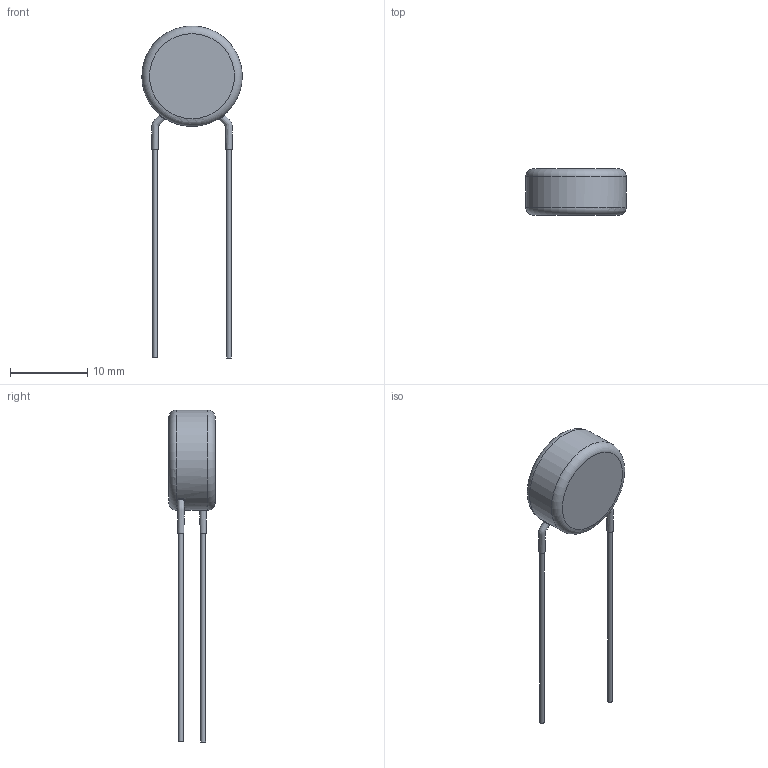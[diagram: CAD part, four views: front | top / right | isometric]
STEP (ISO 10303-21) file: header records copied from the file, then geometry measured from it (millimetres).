
FILE_DESCRIPTION(/* description */ (''),/* implementation_level */ '2;1');
FILE_NAME(/* name */ 'I:\Marketing\M6t1\3D-Models\Zchng-Werk-3\Upload for homepage\BCC neu\AY2 Straight\Step\AY2682M51Y5VS63L0.stp',/* time_stamp */ '2023-07-13T14:14:29+02:00',/* author */ ('truediger'),/* organization */ (''),/* preprocessor_version */ 'ST-DEVELOPER v18',/* originating_system */ 'Autodesk Inventor 2020',/* authorisation */ '');
FILE_SCHEMA (('AUTOMOTIVE_DESIGN { 1 0 10303 214 3 1 1 }'));
Length unit declared in the file: millimetre
Products named in the file (1): Bauteil2
Bounding box: 13 x 6 x 43 mm (x, y, z)
Volume: 800 mm3; surface area: 600.6 mm2
Topology: 1 solids, 1 shells, 19 faces, 43 edges, 28 vertices
Faces by surface type: bspline 8, plane 6, cylinder 3, torus 2
Full cylindrical faces by diameter (mm): 0.6 x2, 13 x1
Entity records: 1965 total; most frequent: CARTESIAN_POINT 1504, ORIENTED_EDGE 86, DIRECTION 75, EDGE_CURVE 43, AXIS2_PLACEMENT_3D 36, VERTEX_POINT 28, CIRCLE 24, EDGE_LOOP 21
